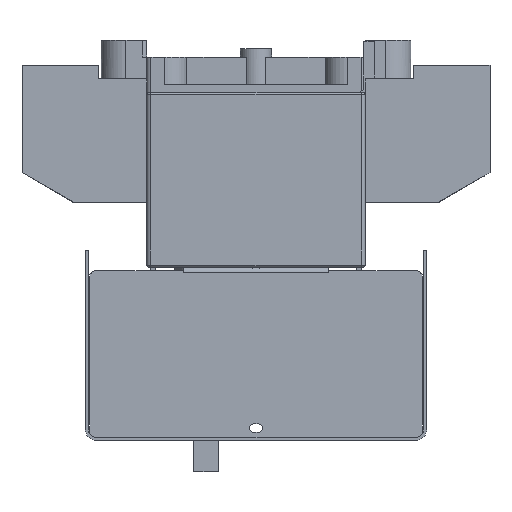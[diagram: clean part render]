
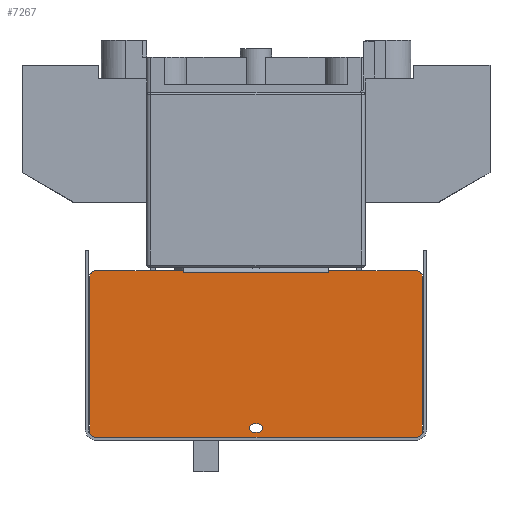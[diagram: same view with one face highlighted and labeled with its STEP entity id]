
A CAD part, left-side view. The second image highlights one B-rep face of the part: STEP entity #7267.
In plain terms, the highlighted planar face has unit normal (-1, 0, 0).
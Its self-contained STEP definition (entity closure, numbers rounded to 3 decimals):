
#618=FACE_BOUND('',#10955,.T.);
#619=FACE_BOUND('',#10956,.T.);
#2211=LINE('',#39698,#5103);
#2218=LINE('',#39716,#5110);
#2224=LINE('',#39733,#5116);
#2228=LINE('',#39746,#5120);
#2233=LINE('',#39763,#5125);
#2234=LINE('',#39768,#5126);
#2239=LINE('',#39781,#5131);
#2240=LINE('',#39783,#5132);
#2241=LINE('',#39785,#5133);
#2242=LINE('',#39787,#5134);
#2243=LINE('',#39789,#5135);
#2244=LINE('',#39791,#5136);
#5103=VECTOR('',#32207,1.);
#5110=VECTOR('',#32220,1.);
#5116=VECTOR('',#32234,1.);
#5120=VECTOR('',#32246,1.);
#5125=VECTOR('',#32265,1.);
#5126=VECTOR('',#32274,1.);
#5131=VECTOR('',#32287,1.);
#5132=VECTOR('',#32290,1.);
#5133=VECTOR('',#32291,1.);
#5134=VECTOR('',#32292,1.);
#5135=VECTOR('',#32293,1.);
#5136=VECTOR('',#32294,1.);
#7267=ADVANCED_FACE('',(#618,#619),#8399,.T.);
#8399=PLANE('',#27496);
#10955=EDGE_LOOP('',(#15403,#15404,#15405,#15406,#15407,#15408,#15409,#15410,
#15411,#15412,#15413,#15414,#15415,#15416));
#10956=EDGE_LOOP('',(#15417,#15418,#15419,#15420));
#15403=ORIENTED_EDGE('',*,*,#23643,.F.);
#15404=ORIENTED_EDGE('',*,*,#23644,.T.);
#15405=ORIENTED_EDGE('',*,*,#23645,.T.);
#15406=ORIENTED_EDGE('',*,*,#23646,.T.);
#15407=ORIENTED_EDGE('',*,*,#23647,.F.);
#15408=ORIENTED_EDGE('',*,*,#23635,.T.);
#15409=ORIENTED_EDGE('',*,*,#23640,.T.);
#15410=ORIENTED_EDGE('',*,*,#23623,.T.);
#15411=ORIENTED_EDGE('',*,*,#23626,.T.);
#15412=ORIENTED_EDGE('',*,*,#23601,.T.);
#15413=ORIENTED_EDGE('',*,*,#23629,.T.);
#15414=ORIENTED_EDGE('',*,*,#23632,.T.);
#15415=ORIENTED_EDGE('',*,*,#23634,.T.);
#15416=ORIENTED_EDGE('',*,*,#23609,.T.);
#15417=ORIENTED_EDGE('',*,*,#23613,.T.);
#15418=ORIENTED_EDGE('',*,*,#23617,.T.);
#15419=ORIENTED_EDGE('',*,*,#23620,.T.);
#15420=ORIENTED_EDGE('',*,*,#23642,.T.);
#20166=VERTEX_POINT('',#38527);
#20211=VERTEX_POINT('',#38624);
#20495=VERTEX_POINT('',#39715);
#20496=VERTEX_POINT('',#39717);
#20499=VERTEX_POINT('',#39724);
#20500=VERTEX_POINT('',#39726);
#20502=VERTEX_POINT('',#39732);
#20504=VERTEX_POINT('',#39738);
#20507=VERTEX_POINT('',#39745);
#20508=VERTEX_POINT('',#39747);
#20510=VERTEX_POINT('',#39756);
#20512=VERTEX_POINT('',#39762);
#20513=VERTEX_POINT('',#39769);
#20514=VERTEX_POINT('',#39770);
#20517=VERTEX_POINT('',#39784);
#20518=VERTEX_POINT('',#39786);
#20519=VERTEX_POINT('',#39788);
#20520=VERTEX_POINT('',#39790);
#23601=EDGE_CURVE('',#20166,#20211,#2211,.T.);
#23609=EDGE_CURVE('',#20496,#20495,#2218,.T.);
#23613=EDGE_CURVE('',#20500,#20499,#25951,.T.);
#23617=EDGE_CURVE('',#20499,#20502,#2224,.T.);
#23620=EDGE_CURVE('',#20502,#20504,#25953,.T.);
#23623=EDGE_CURVE('',#20508,#20507,#2228,.T.);
#23626=EDGE_CURVE('',#20507,#20166,#25955,.T.);
#23629=EDGE_CURVE('',#20211,#20510,#25957,.T.);
#23632=EDGE_CURVE('',#20510,#20512,#2233,.T.);
#23634=EDGE_CURVE('',#20512,#20496,#25959,.T.);
#23635=EDGE_CURVE('',#20513,#20514,#2234,.T.);
#23640=EDGE_CURVE('',#20514,#20508,#25961,.T.);
#23642=EDGE_CURVE('',#20504,#20500,#2239,.T.);
#23643=EDGE_CURVE('',#20517,#20495,#2240,.T.);
#23644=EDGE_CURVE('',#20517,#20518,#2241,.T.);
#23645=EDGE_CURVE('',#20518,#20519,#2242,.T.);
#23646=EDGE_CURVE('',#20519,#20520,#2243,.T.);
#23647=EDGE_CURVE('',#20513,#20520,#2244,.T.);
#25951=CIRCLE('',#27474,2.1);
#25953=CIRCLE('',#27478,2.1);
#25955=CIRCLE('',#27482,3.);
#25957=CIRCLE('',#27485,3.);
#25959=CIRCLE('',#27489,3.);
#25961=CIRCLE('',#27493,3.);
#27474=AXIS2_PLACEMENT_3D('',#39725,#32227,#32228);
#27478=AXIS2_PLACEMENT_3D('',#39739,#32240,#32241);
#27482=AXIS2_PLACEMENT_3D('',#39751,#32252,#32253);
#27485=AXIS2_PLACEMENT_3D('',#39757,#32259,#32260);
#27489=AXIS2_PLACEMENT_3D('',#39766,#32270,#32271);
#27493=AXIS2_PLACEMENT_3D('',#39778,#32282,#32283);
#27496=AXIS2_PLACEMENT_3D('',#39792,#32295,#32296);
#32207=DIRECTION('',(0.,-1.,0.));
#32220=DIRECTION('',(0.,1.,0.));
#32227=DIRECTION('',(1.,0.,0.));
#32228=DIRECTION('',(0.,1.,0.));
#32234=DIRECTION('',(0.,-1.,0.));
#32240=DIRECTION('',(1.,0.,0.));
#32241=DIRECTION('',(0.,1.,0.));
#32246=DIRECTION('',(0.,0.,-1.));
#32252=DIRECTION('',(-1.,0.,0.));
#32253=DIRECTION('',(0.,1.,0.));
#32259=DIRECTION('',(-1.,0.,0.));
#32260=DIRECTION('',(0.,1.,0.));
#32265=DIRECTION('',(0.,0.,1.));
#32270=DIRECTION('',(-1.,0.,0.));
#32271=DIRECTION('',(0.,1.,0.));
#32274=DIRECTION('',(0.,1.,0.));
#32282=DIRECTION('',(-1.,0.,0.));
#32283=DIRECTION('',(0.,1.,0.));
#32287=DIRECTION('',(0.,1.,0.));
#32290=DIRECTION('',(0.,0.,1.));
#32291=DIRECTION('',(0.,1.,0.));
#32292=DIRECTION('',(0.,1.,0.));
#32293=DIRECTION('',(0.,1.,0.));
#32294=DIRECTION('',(0.,0.,-1.));
#32295=DIRECTION('',(-1.,0.,0.));
#32296=DIRECTION('',(0.,-1.,0.));
#38527=CARTESIAN_POINT('',(-189.3,77.,-165.8));
#38624=CARTESIAN_POINT('',(-189.3,-77.,-165.8));
#39698=CARTESIAN_POINT('',(-189.3,77.,-165.8));
#39715=CARTESIAN_POINT('',(-189.3,-35.002,-85.8));
#39716=CARTESIAN_POINT('',(-189.3,-77.,-85.8));
#39717=CARTESIAN_POINT('',(-189.3,-77.,-85.8));
#39724=CARTESIAN_POINT('',(-189.3,1.,-159.3));
#39725=CARTESIAN_POINT('',(-189.3,1.,-161.4));
#39726=CARTESIAN_POINT('',(-189.3,1.,-163.5));
#39732=CARTESIAN_POINT('',(-189.3,-1.,-159.3));
#39733=CARTESIAN_POINT('',(-189.3,1.,-159.3));
#39738=CARTESIAN_POINT('',(-189.3,-1.,-163.5));
#39739=CARTESIAN_POINT('',(-189.3,-1.,-161.4));
#39745=CARTESIAN_POINT('',(-189.3,80.,-162.8));
#39746=CARTESIAN_POINT('',(-189.3,80.,-88.8));
#39747=CARTESIAN_POINT('',(-189.3,80.,-88.8));
#39751=CARTESIAN_POINT('',(-189.3,77.,-162.8));
#39756=CARTESIAN_POINT('',(-189.3,-80.,-162.8));
#39757=CARTESIAN_POINT('',(-189.3,-77.,-162.8));
#39762=CARTESIAN_POINT('',(-189.3,-80.,-88.8));
#39763=CARTESIAN_POINT('',(-189.3,-80.,-162.8));
#39766=CARTESIAN_POINT('',(-189.3,-77.,-88.8));
#39768=CARTESIAN_POINT('',(-189.3,-77.,-85.8));
#39769=CARTESIAN_POINT('',(-189.3,35.002,-85.8));
#39770=CARTESIAN_POINT('',(-189.3,77.,-85.8));
#39778=CARTESIAN_POINT('',(-189.3,77.,-88.8));
#39781=CARTESIAN_POINT('',(-189.3,-1.,-163.5));
#39783=CARTESIAN_POINT('',(-189.3,-35.002,-162.8));
#39784=CARTESIAN_POINT('',(-189.3,-35.002,-86.8));
#39785=CARTESIAN_POINT('',(-189.3,77.,-86.8));
#39786=CARTESIAN_POINT('',(-189.3,-35.,-86.8));
#39787=CARTESIAN_POINT('',(-189.3,50.5,-86.8));
#39788=CARTESIAN_POINT('',(-189.3,35.,-86.8));
#39789=CARTESIAN_POINT('',(-189.3,77.,-86.8));
#39790=CARTESIAN_POINT('',(-189.3,35.002,-86.8));
#39791=CARTESIAN_POINT('',(-189.3,35.002,-162.8));
#39792=CARTESIAN_POINT('',(-189.3,77.,-162.8));
